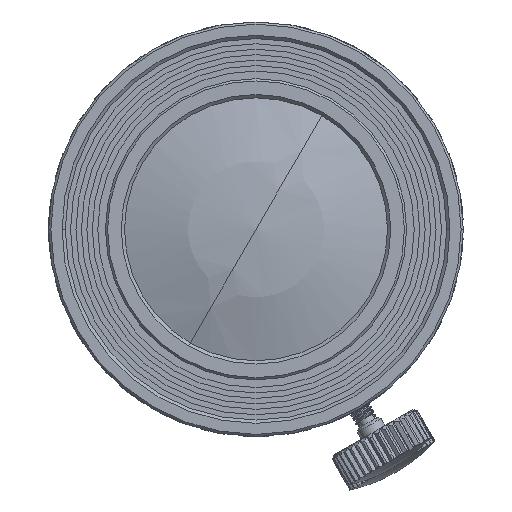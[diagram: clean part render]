
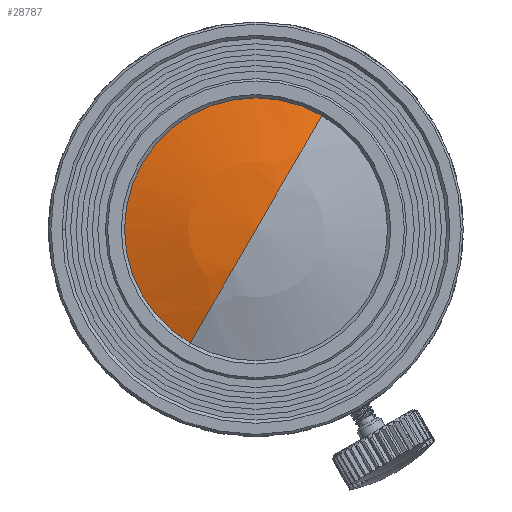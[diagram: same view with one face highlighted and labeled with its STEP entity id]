
A CAD part, left-side view. The second image highlights one B-rep face of the part: STEP entity #28787.
In plain terms, the highlighted spherical face has radius 39.4 mm.
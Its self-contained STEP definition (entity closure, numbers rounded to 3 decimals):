
#28644=CARTESIAN_POINT('',(-7.035,0.,0.));
#28645=DIRECTION('',(0.,-0.866,-0.5));
#28646=DIRECTION('',(-0.95,-0.156,0.27));
#28647=AXIS2_PLACEMENT_3D('',#28644,#28645,#28646);
#28649=CARTESIAN_POINT('',(-7.035,0.,0.));
#28650=DIRECTION('',(0.,-0.866,-0.5));
#28651=DIRECTION('',(-1.,0.,0.));
#28652=AXIS2_PLACEMENT_3D('',#28649,#28650,#28651);
#28654=CARTESIAN_POINT('',(-44.466,0.,0.));
#28655=DIRECTION('',(-1.,0.,0.));
#28656=DIRECTION('',(0.,-0.5,0.866));
#28657=AXIS2_PLACEMENT_3D('',#28654,#28655,#28656);
#28738=CARTESIAN_POINT('',(-44.466,-6.15,
10.652));
#28739=CARTESIAN_POINT('',(-46.435,0.,0.));
#28740=VERTEX_POINT('',#28738);
#28741=VERTEX_POINT('',#28739);
#28742=CARTESIAN_POINT('',(-44.466,6.15,-10.652));
#28743=VERTEX_POINT('',#28742);
#28776=CARTESIAN_POINT('',(-7.035,0.,0.));
#28777=DIRECTION('',(1.,0.,0.));
#28778=DIRECTION('',(0.,-0.5,0.866));
#28779=AXIS2_PLACEMENT_3D('',#28776,#28777,#28778);
#28780=SPHERICAL_SURFACE('',#28779,39.4);
#28781=ORIENTED_EDGE('',*,*,#28767,.T.);
#28782=ORIENTED_EDGE('',*,*,#28771,.T.);
#28784=ORIENTED_EDGE('',*,*,#28783,.F.);
#28785=EDGE_LOOP('',(#28781,#28782,#28784));
#28786=FACE_OUTER_BOUND('',#28785,.F.);
#28648=CIRCLE('',#28647,39.4);
#28653=CIRCLE('',#28652,39.4);
#28658=CIRCLE('',#28657,12.3);
#28767=EDGE_CURVE('',#28740,#28741,#28648,.T.);
#28771=EDGE_CURVE('',#28741,#28743,#28653,.T.);
#28783=EDGE_CURVE('',#28740,#28743,#28658,.T.);
#28787=ADVANCED_FACE('',(#28786),#28780,.T.);
